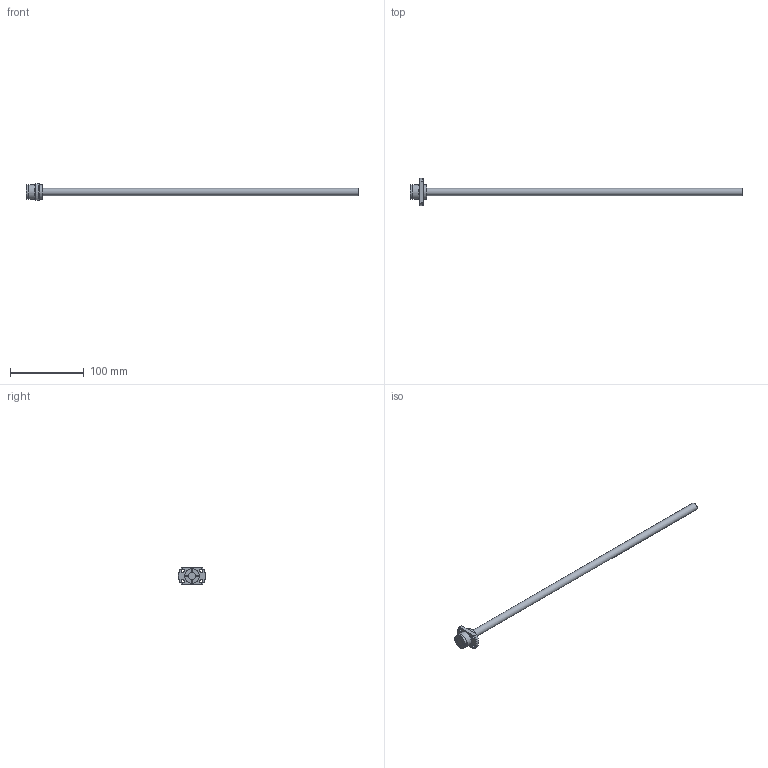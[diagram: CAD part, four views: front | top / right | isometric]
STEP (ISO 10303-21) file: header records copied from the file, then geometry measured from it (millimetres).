
FILE_DESCRIPTION( ( 'STEP AP203' ), '1' );
FILE_NAME( 'e:/temp/worker_93/temp/exporttempdir_5268_1649_rKuOy/format_0/SR1020-450R450C7(0).stp', '2021-10-19T03:47:13', ( 'License CC BY-ND 4.0' ), ( 'CADENAS' ), ' ', 'PARTsolutions', ' ' );
FILE_SCHEMA( ( 'CONFIG_CONTROL_DESIGN' ) );
Length unit declared in the file: millimetre
Products named in the file (3): SR1020-450R450C7(0); _SR1020-450R450C7(0)_shaft; _SR1020-450R450C7C7_nut
Assembly tree (2 placements, depth 2):
  SR1020-450R450C7(0)
    _SR1020-450R450C7(0)_shaft
    _SR1020-450R450C7C7_nut
Bounding box: 450 x 37 x 22 mm (x, y, z)
Volume: 42510.1 mm3; surface area: 18243 mm2
Topology: 2 solids, 2 shells, 86 faces, 204 edges, 133 vertices
Faces by surface type: plane 55, cylinder 21, cone 10
Full cylindrical faces by diameter (mm): 2.15 x1, 2.5 x1, 4.5 x4, 10 x2, 19.5 x3, 20 x2
Entity records: 2498 total; most frequent: CARTESIAN_POINT 427, DIRECTION 412, ORIENTED_EDGE 366, EDGE_CURVE 183, AXIS2_PLACEMENT_3D 148, VERTEX_POINT 131, EDGE_LOOP 126, LINE 116
